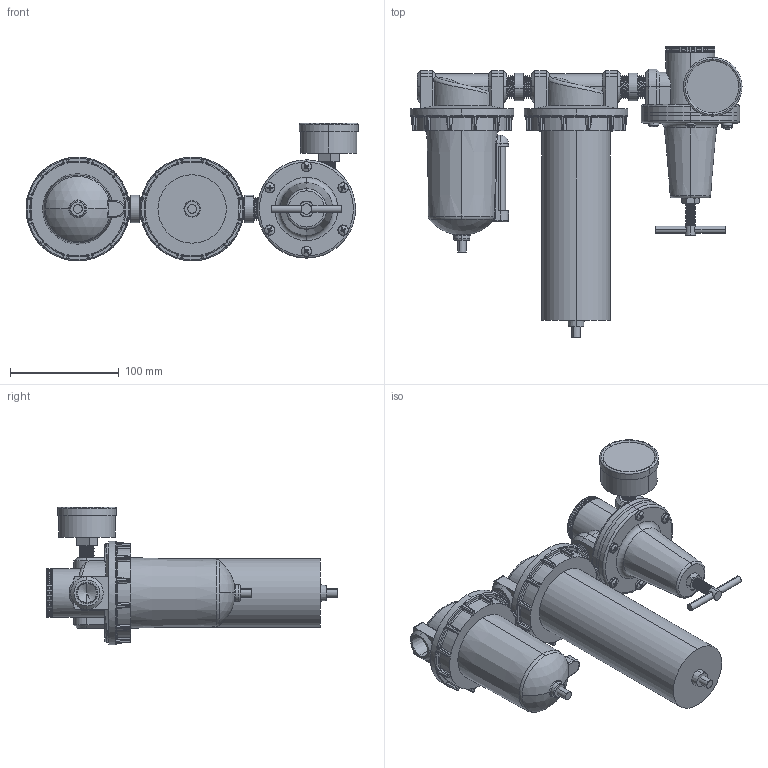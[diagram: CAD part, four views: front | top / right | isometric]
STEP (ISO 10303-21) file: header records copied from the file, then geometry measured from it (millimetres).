
FILE_DESCRIPTION (( 'STEP AP203' ), '1' );
FILE_NAME ('C728#W#-04YB#.STEP', '2016-01-14T17:42:31', ( '' ), ( '' ), 'SwSTEP 2.0', 'SolidWorks 2014', '' );
FILE_SCHEMA (( 'CONFIG_CONTROL_DESIGN' ));
Length unit declared in the file: millimetre
Products named in the file (21): ISO 7045 - M5 x 12; 50-P-AD=1-4PT-1; R119-04-4; F602-04-上; 1-2-圓; L606-W-06-2; R119-04-1; R119-02-6; 50-P-AD=1-4PT-2; R119-04-無固定架; L606-W-06-5; R119-02-5; R119-02-7; H604D-02-1; F602W-04#YB#; R119-04-2; C728#W#-04YB#; L606-W-04-下; H604D-04YB#; 50-P-AD=1-4PT.SLDPRT; R119-04-3
Assembly tree (29 placements, depth 4):
  C728#W#-04YB#
    F602W-04#YB#
      F602-04-上
      L606-W-06-2
      L606-W-06-5
      L606-W-04-下
    H604D-04YB#
      L606-W-06-5
      H604D-02-1
      F602-04-上
    1-2-圓  x2
    R119-04-無固定架
      R119-04-1
      R119-04-2
      R119-04-3
      R119-04-4
      R119-02-5
      R119-02-7
      R119-02-6
      ISO 7045 - M5 x 12  x7
      50-P-AD=1-4PT.SLDPRT
        50-P-AD=1-4PT-1
        50-P-AD=1-4PT-2
Bounding box: 305.75 x 268.5 x 126.75 mm (x, y, z)
Volume: 1657501.1 mm3; surface area: 227138.3 mm2
Topology: 25 solids, 25 shells, 1544 faces, 3773 edges, 2233 vertices
Faces by surface type: plane 486, cone 332, cylinder 332, bspline 215, torus 102, sphere 77
Entity records: 43385 total; most frequent: CARTESIAN_POINT 19795, ORIENTED_EDGE 4682, DIRECTION 4165, EDGE_CURVE 2341, AXIS2_PLACEMENT_3D 1736, VERTEX_POINT 1404, EDGE_LOOP 1025, ADVANCED_FACE 989
